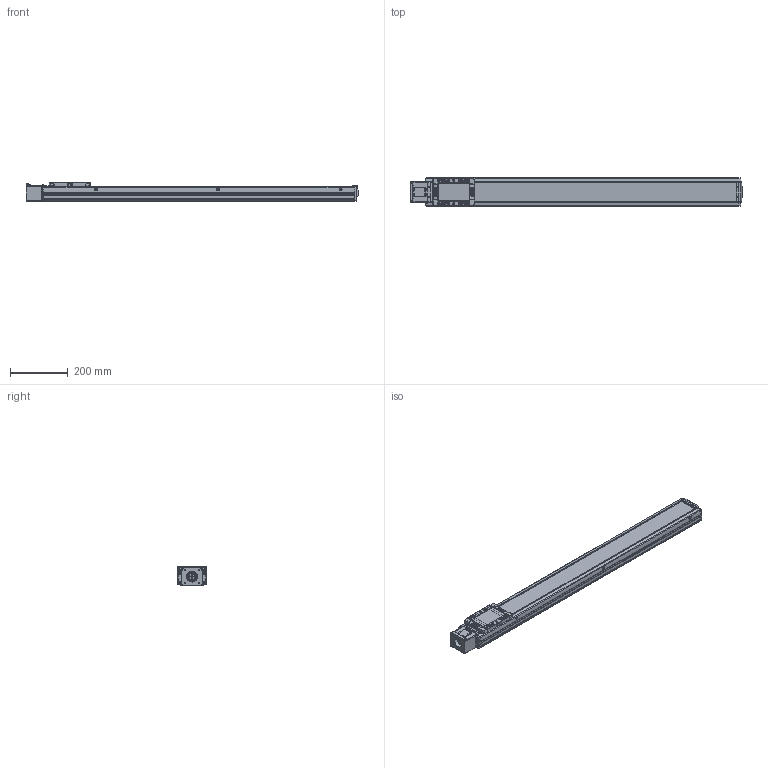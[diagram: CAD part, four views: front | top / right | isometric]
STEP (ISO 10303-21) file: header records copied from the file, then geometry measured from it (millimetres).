
FILE_DESCRIPTION(('STEP AP214'),'1');
FILE_NAME('Z:/Web/3D/SAN100/SAN100 양산용 (STEP)/SAN100ㅁㅁ-900S.stp','2013-04-30T04:11:17',(' '),(' '),'Spatial InterOp 3D',' ',' ');
FILE_SCHEMA(('automotive_design'));
Length unit declared in the file: millimetre
Products named in the file (42): MTHZ-SAN100-S56A; SDA26C-8-6.35; SSFX-SAN65; CPLCV-SAN65; M3.0 x 6.0; 스크루 : Round - M4.0 x 10.0; FRCV-SAN100; SUS COVER; SFX-SAN100; RRCV-SAN100; 스크루 : Round - M3.0 x 6.0; FRBL-SAN100; SLBL-SAN100; SLCV-SAN100; 스크루 : Countersunk - M3.0 x 6.0; BASE; 스크루 : Round - M5.0 x 6.0
Bounding box: 1152.5 x 100 x 66 mm (x, y, z)
Volume: 3083834.4 mm3; surface area: 744952.9 mm2
Topology: 42 solids, 43 shells, 2550 faces, 6728 edges, 4341 vertices
Faces by surface type: plane 1173, cylinder 1015, cone 241, sphere 56, torus 45, bspline 20
Entity records: 102346 total; most frequent: CARTESIAN_POINT 16315, DIRECTION 14240, ORIENTED_EDGE 13244, EDGE_CURVE 6622, AXIS2_PLACEMENT_3D 5253, VERTEX_POINT 4341, LINE 3734, VECTOR 3734
